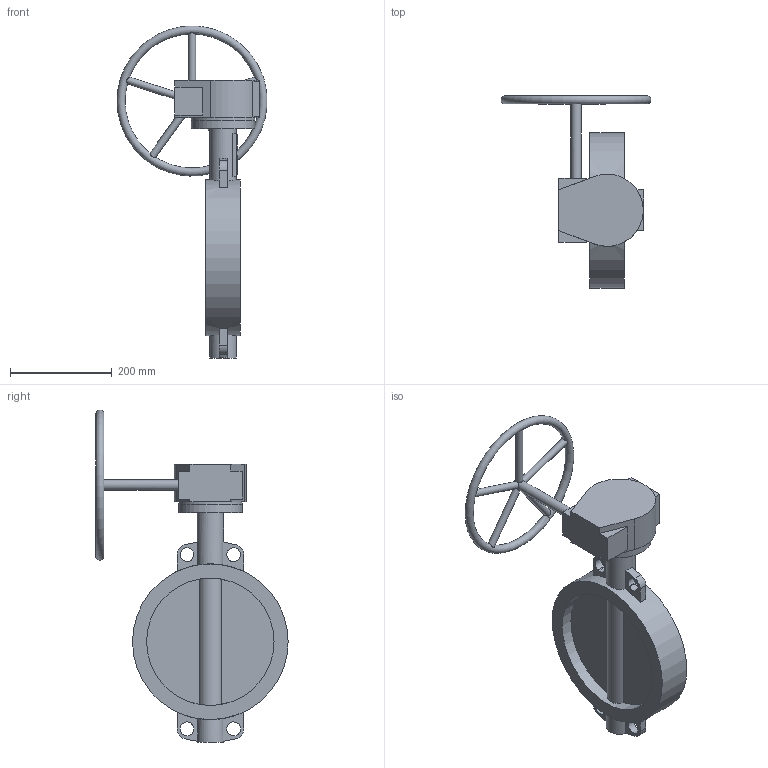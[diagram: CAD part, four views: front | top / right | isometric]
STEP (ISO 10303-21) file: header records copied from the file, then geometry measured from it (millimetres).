
FILE_DESCRIPTION(('STEP AP203'), '1');
FILE_NAME('青蜮铕 017W.ZS DN250 PN10_16 疱潴牝铕', '', ('UNSPECIFIED'), ('UNSPECIFIED'), 'ASCON STEP Converter 1.6', 'ASCON Math Kernel', '');
FILE_SCHEMA(('CONFIG_CONTROL_DESIGN'));
Length unit declared in the file: millimetre
Bounding box: 294.64 x 378 x 652.5 mm (x, y, z)
Volume: 1845416 mm3; surface area: 498149.5 mm2
Topology: 1 solids, 2 shells, 825 faces, 2449 edges, 1578 vertices
Faces by surface type: cylinder 619, plane 205, torus 1
Full cylindrical faces by diameter (mm): 8.5 x4, 12 x4, 14 x5, 20 x2, 28.6 x1, 52 x2, 70 x1, 125 x2, 250.4 x2, 306 x1
Entity records: 37329 total; most frequent: CARTESIAN_POINT 7509, DIRECTION 5329, ORIENTED_EDGE 4770, EDGE_CURVE 2424, AXIS2_PLACEMENT_3D 2124, VERTEX_POINT 1577, CIRCLE 1298, LINE 1081
